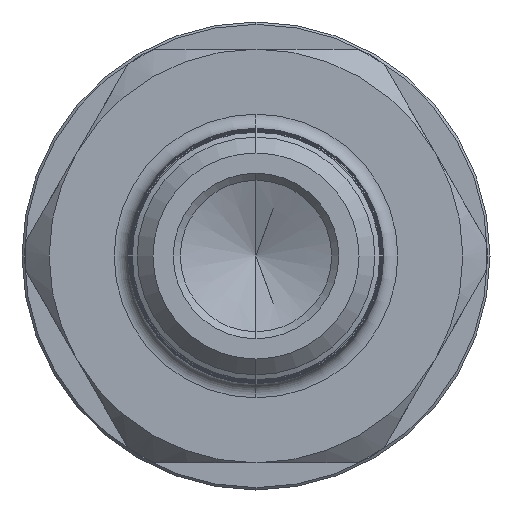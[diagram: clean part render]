
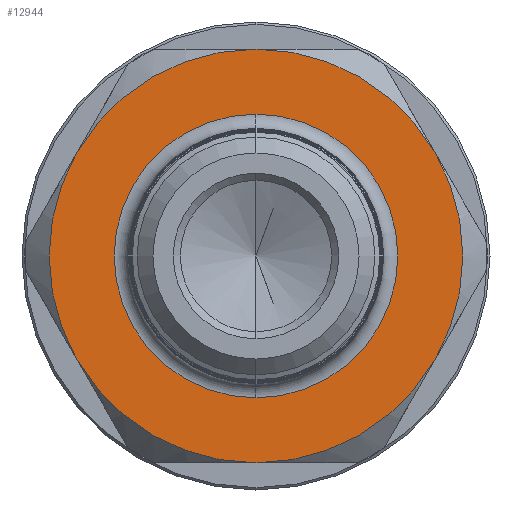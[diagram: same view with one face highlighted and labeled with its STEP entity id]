
A CAD part, left-side view. The second image highlights one B-rep face of the part: STEP entity #12944.
In plain terms, the highlighted planar face has unit normal (-1, 0, 0).
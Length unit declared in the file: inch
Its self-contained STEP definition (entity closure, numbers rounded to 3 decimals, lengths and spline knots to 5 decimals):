
#398 = EDGE_CURVE ( 'NONE', #14924, #2823, #1309, .T. ) ;
#553 = CIRCLE ( 'NONE', #10523, 0.3 ) ;
#566 = AXIS2_PLACEMENT_3D ( 'NONE', #11324, #6674, #9193 ) ;
#577 = AXIS2_PLACEMENT_3D ( 'NONE', #13534, #3097, #1963 ) ;
#696 = DIRECTION ( 'NONE',  ( 0., 0., 1. ) ) ;
#954 = VERTEX_POINT ( 'NONE', #1914 ) ;
#1051 = EDGE_CURVE ( 'NONE', #5870, #11577, #553, .T. ) ;
#1309 = CIRCLE ( 'NONE', #566, 0.4375 ) ;
#1554 = AXIS2_PLACEMENT_3D ( 'NONE', #13219, #5982, #5135 ) ;
#1914 = CARTESIAN_POINT ( 'NONE',  ( 0.585, 0., -0.4375 ) ) ;
#1941 = AXIS2_PLACEMENT_3D ( 'NONE', #10752, #12976, #10828 ) ;
#1963 = DIRECTION ( 'NONE',  ( 0., 0., 1. ) ) ;
#2823 = VERTEX_POINT ( 'NONE', #5623 ) ;
#3097 = DIRECTION ( 'NONE',  ( -1., 0., 0. ) ) ;
#3182 = EDGE_LOOP ( 'NONE', ( #9844, #14181 ) ) ;
#3236 = VERTEX_POINT ( 'NONE', #7959 ) ;
#3277 = ORIENTED_EDGE ( 'NONE', *, *, #398, .T. ) ;
#3495 = CIRCLE ( 'NONE', #577, 0.4375 ) ;
#3777 = DIRECTION ( 'NONE',  ( 1., 0., 0. ) ) ;
#3907 = VERTEX_POINT ( 'NONE', #8355 ) ;
#4265 = DIRECTION ( 'NONE',  ( -1., 0., 0. ) ) ;
#4333 = DIRECTION ( 'NONE',  ( 0., 0., 1. ) ) ;
#4494 = DIRECTION ( 'NONE',  ( 0., 0., 1. ) ) ;
#5135 = DIRECTION ( 'NONE',  ( 0., 0., 1. ) ) ;
#5433 = EDGE_CURVE ( 'NONE', #3236, #14924, #8282, .T. ) ;
#5623 = CARTESIAN_POINT ( 'NONE',  ( 0.585, 0.37889, 0.21875 ) ) ;
#5696 = CARTESIAN_POINT ( 'NONE',  ( 0.585, 0., -0.3 ) ) ;
#5811 = ORIENTED_EDGE ( 'NONE', *, *, #10074, .T. ) ;
#5870 = VERTEX_POINT ( 'NONE', #5696 ) ;
#5976 = CIRCLE ( 'NONE', #7908, 0.4375 ) ;
#5982 = DIRECTION ( 'NONE',  ( -1., 0., 0. ) ) ;
#6472 = DIRECTION ( 'NONE',  ( 1., 0., 0. ) ) ;
#6473 = FACE_BOUND ( 'NONE', #3182, .T. ) ;
#6537 = ORIENTED_EDGE ( 'NONE', *, *, #5433, .T. ) ;
#6674 = DIRECTION ( 'NONE',  ( -1., 0., 0. ) ) ;
#6924 = CARTESIAN_POINT ( 'NONE',  ( 0.585, 0., 0. ) ) ;
#7102 = EDGE_CURVE ( 'NONE', #2823, #3907, #3495, .T. ) ;
#7242 = EDGE_CURVE ( 'NONE', #954, #12548, #9807, .T. ) ;
#7288 = CIRCLE ( 'NONE', #1941, 0.4375 ) ;
#7678 = PLANE ( 'NONE',  #13026 ) ;
#7747 = EDGE_LOOP ( 'NONE', ( #8651, #5811, #6537, #3277, #8824, #7843 ) ) ;
#7843 = ORIENTED_EDGE ( 'NONE', *, *, #12136, .T. ) ;
#7908 = AXIS2_PLACEMENT_3D ( 'NONE', #6924, #10276, #4494 ) ;
#7959 = CARTESIAN_POINT ( 'NONE',  ( 0.585, -0.37889, 0.21875 ) ) ;
#8282 = CIRCLE ( 'NONE', #10721, 0.4375 ) ;
#8355 = CARTESIAN_POINT ( 'NONE',  ( 0.585, 0.37889, -0.21875 ) ) ;
#8651 = ORIENTED_EDGE ( 'NONE', *, *, #7242, .T. ) ;
#8740 = CIRCLE ( 'NONE', #14584, 0.3 ) ;
#8824 = ORIENTED_EDGE ( 'NONE', *, *, #7102, .T. ) ;
#8910 = FACE_OUTER_BOUND ( 'NONE', #7747, .T. ) ;
#9145 = CARTESIAN_POINT ( 'NONE',  ( 0.585, 0., 0.4375 ) ) ;
#9193 = DIRECTION ( 'NONE',  ( 0., 0., 1. ) ) ;
#9496 = CARTESIAN_POINT ( 'NONE',  ( 0.585, -0.37889, -0.21875 ) ) ;
#9807 = CIRCLE ( 'NONE', #1554, 0.4375 ) ;
#9844 = ORIENTED_EDGE ( 'NONE', *, *, #10566, .T. ) ;
#10074 = EDGE_CURVE ( 'NONE', #12548, #3236, #7288, .T. ) ;
#10141 = CARTESIAN_POINT ( 'NONE',  ( 0.585, 0., 0.3 ) ) ;
#10276 = DIRECTION ( 'NONE',  ( -1., 0., 0. ) ) ;
#10523 = AXIS2_PLACEMENT_3D ( 'NONE', #11042, #6472, #4333 ) ;
#10566 = EDGE_CURVE ( 'NONE', #11577, #5870, #8740, .T. ) ;
#10721 = AXIS2_PLACEMENT_3D ( 'NONE', #11273, #4265, #14699 ) ;
#10752 = CARTESIAN_POINT ( 'NONE',  ( 0.585, 0., 0. ) ) ;
#10828 = DIRECTION ( 'NONE',  ( 0., 0., 1. ) ) ;
#11042 = CARTESIAN_POINT ( 'NONE',  ( 0.585, 0., 0. ) ) ;
#11118 = CARTESIAN_POINT ( 'NONE',  ( 0.585, 0., 0. ) ) ;
#11273 = CARTESIAN_POINT ( 'NONE',  ( 0.585, 0., 0. ) ) ;
#11324 = CARTESIAN_POINT ( 'NONE',  ( 0.585, 0., 0. ) ) ;
#11577 = VERTEX_POINT ( 'NONE', #10141 ) ;
#11921 = DIRECTION ( 'NONE',  ( 0., 0., 1. ) ) ;
#12136 = EDGE_CURVE ( 'NONE', #3907, #954, #5976, .T. ) ;
#12548 = VERTEX_POINT ( 'NONE', #9496 ) ;
#12944 = ADVANCED_FACE ( 'NONE', ( #6473, #8910 ), #7678, .T. ) ;
#12976 = DIRECTION ( 'NONE',  ( -1., 0., 0. ) ) ;
#13026 = AXIS2_PLACEMENT_3D ( 'NONE', #11118, #13482, #696 ) ;
#13219 = CARTESIAN_POINT ( 'NONE',  ( 0.585, 0., 0. ) ) ;
#13482 = DIRECTION ( 'NONE',  ( -1., 0., 0. ) ) ;
#13534 = CARTESIAN_POINT ( 'NONE',  ( 0.585, 0., 0. ) ) ;
#14181 = ORIENTED_EDGE ( 'NONE', *, *, #1051, .T. ) ;
#14213 = CARTESIAN_POINT ( 'NONE',  ( 0.585, 0., 0. ) ) ;
#14584 = AXIS2_PLACEMENT_3D ( 'NONE', #14213, #3777, #11921 ) ;
#14699 = DIRECTION ( 'NONE',  ( 0., 0., 1. ) ) ;
#14924 = VERTEX_POINT ( 'NONE', #9145 ) ;
